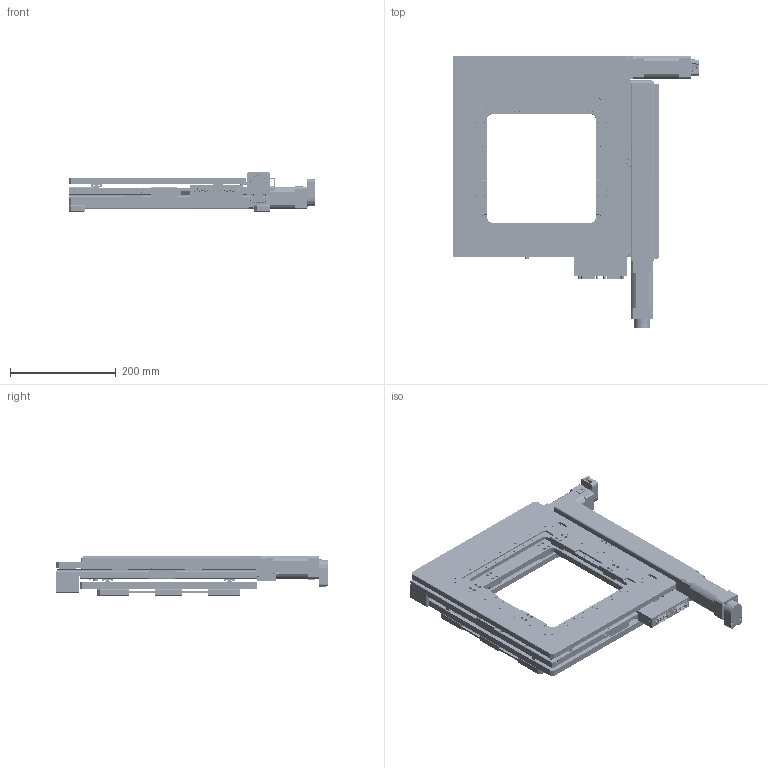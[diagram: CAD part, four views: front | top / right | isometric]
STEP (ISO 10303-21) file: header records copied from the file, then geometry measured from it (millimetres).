
FILE_DESCRIPTION(/* description */ (''),/* implementation_level */ '2;1');
FILE_NAME(/* name */ 'U:\KONSTRUKTORIAI\DOKUMENTACIJA\8\8MTF-200-B43-MEn4-LEn1\STEP\8MTF-200-B43-MEn4 SB.stp',/* time_stamp */ '2022-12-14T08:49:43+02:00',/* author */ ('dsgn32'),/* organization */ (''),/* preprocessor_version */ 'ST-DEVELOPER v15.2',/* originating_system */ 'Autodesk Inventor 2014',/* authorisation */ '');
FILE_SCHEMA (('CONFIG_CONTROL_DESIGN'));
Products named in the file (1): 8MTF-200-B43-MEn4 SB
Bounding box: 465.89 x 513.89 x 74 mm (x, y, z)
Volume: 4769089.1 mm3; surface area: 905123.8 mm2
Topology: 4 solids, 49 shells, 6380 faces, 15805 edges, 10107 vertices
Faces by surface type: plane 3537, cylinder 1888, bspline 448, cone 361, torus 110, sphere 36
Full cylindrical faces by diameter (mm): 0.61 x52, 0.813 x10, 1.143 x52, 1.321 x52, 1.567 x34, 1.981 x16, 2.013 x9, 2.459 x151, 2.5 x32, 2.693 x8, 2.9 x4, 3 x8, 3.048 x4, 3.1 x1, 3.175 x4, 3.242 x67, 3.302 x12, 3.4 x55, 3.5 x81, 4 x22, 4.2 x3, 4.5 x22, 4.917 x2, 5 x6, 6 x120, 6.35 x2, 6.5 x8, 7 x21, 8 x22, 9 x1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
Entity records: 205196 total; most frequent: CARTESIAN_POINT 55081, DIRECTION 28939, ORIENTED_EDGE 28364, EDGE_CURVE 14161, AXIS2_PLACEMENT_3D 10182, VERTEX_POINT 9752, EDGE_LOOP 8708, LINE 8575
